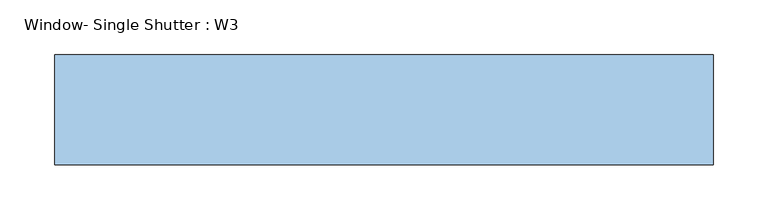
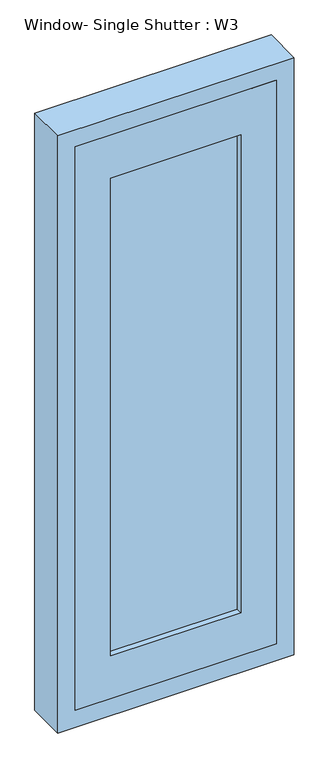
"""IFC4 building model written with IfcOpenShell, lengths in millimetres: window geometry, Window- Single Shutter : W3."""

import ifcopenshell
import ifcopenshell.guid

model = None  # the IFC model being written
_history = None  # IfcOwnerHistory: only IFC2X3 demands one
_inside = {}  # id of a spatial element -> (the spatial element, [elements in it])
_under = {}  # id of a project, library or spatial element -> (it, [spatial elements below it])
_declared = {}  # id of a project -> (the project, [libraries it declares])
_typed = {}  # id of a type object -> (the type object, [elements of that type])
_made_of = {}  # id of a material, layer set ... -> (it, [elements and type objects made of it])


def new_model(schema):
    """Start an empty IFC model of exactly this schema.

    Asked for "IFC4X3", IfcOpenShell would pick the latest addendum, in which some entities
    have other attributes; the version numbers below select the first issue.
    IFC2X3 requires an IfcOwnerHistory on every rooted entity: one is made here for all.
    """
    global model, _history
    if schema == "IFC4X3":
        model = ifcopenshell.file(schema_version=(4, 3, 0, 0))
    else:
        model = ifcopenshell.file(schema=schema)
    _inside.clear()
    _under.clear()
    _declared.clear()
    _typed.clear()
    _made_of.clear()
    _history = None
    if model.schema == "IFC2X3":
        org = make("IfcOrganization", Name="unknown")
        user = make(
            "IfcPersonAndOrganization",
            ThePerson=make("IfcPerson", FamilyName="unknown"),
            TheOrganization=org,
        )
        app = make(
            "IfcApplication",
            ApplicationDeveloper=org,
            Version="unknown",
            ApplicationFullName="unknown",
            ApplicationIdentifier="unknown",
        )
        _history = make(
            "IfcOwnerHistory",
            OwningUser=user,
            OwningApplication=app,
            ChangeAction="ADDED",
            CreationDate=0,
        )
    return model


def make(cls, **values):
    """One entity of the class cls with the attributes given. An attribute that is None is left unset."""
    return model.create_entity(
        cls, **{name: value for name, value in values.items() if value is not None}
    )


def rooted(cls, **values):
    """An entity with a GlobalId (a new one), such as an element, a storey or a relation."""
    return make(cls, GlobalId=ifcopenshell.guid.new(), OwnerHistory=_history, **values)


def si_unit(unit_type, name, prefix=None):
    """IfcSIUnit, for example si_unit("LENGTHUNIT", "METRE", prefix="MILLI")."""
    return make("IfcSIUnit", UnitType=unit_type, Prefix=prefix, Name=name)


def assignment(units):
    """IfcUnitAssignment: the units of a project."""
    return None if units is None else make("IfcUnitAssignment", Units=units)


def point(xyz):
    """IfcCartesianPoint."""
    return None if xyz is None else make("IfcCartesianPoint", Coordinates=xyz)


def direction(xyz):
    """IfcDirection."""
    return None if xyz is None else make("IfcDirection", DirectionRatios=xyz)


def frame(location, z_axis=None, x_axis=None):
    """IfcAxis2Placement3D, a coordinate frame: its origin and axes. An axis left out is left unset."""
    return make(
        "IfcAxis2Placement3D",
        Location=point(location),
        Axis=direction(z_axis),
        RefDirection=direction(x_axis),
    )


def origin():
    """The frame at (0, 0, 0) with its axes left unset."""
    return frame((0.0, 0.0, 0.0))


def place(relative_to, where):
    """IfcLocalPlacement: puts the frame where relative to a parent placement (None: the world)."""
    return make(
        "IfcLocalPlacement", PlacementRelTo=relative_to, RelativePlacement=where
    )


def context(
    kind, dimensions, precision=None, world=None, true_north=None, identifier=None
):
    """IfcGeometricRepresentationContext, for example the 3D "Model" context."""
    return make(
        "IfcGeometricRepresentationContext",
        ContextIdentifier=identifier,
        ContextType=kind,
        CoordinateSpaceDimension=dimensions,
        Precision=precision,
        WorldCoordinateSystem=world,
        TrueNorth=true_north,
    )


def project(units=None, contexts=None):
    """IfcProject with its units and contexts."""
    return rooted(
        "IfcProject",
        Name="project",
        RepresentationContexts=contexts,
        UnitsInContext=assignment(units),
    )


def spatial(cls, under=None, at=None, **own):
    """A site, building, storey or space (cls), placed at a placement, below another one or the project."""
    s = rooted(cls, ObjectPlacement=at, **own)
    if under is not None:
        _under.setdefault(under.id(), (under, []))[1].append(s)
    return s


def polyline(points):
    """IfcPolyline through the points."""
    return make("IfcPolyline", Points=[point(p) for p in points])


def outline(outer, holes=None, kind="AREA"):
    """IfcArbitraryClosedProfileDef: a profile drawn as a closed curve; with holes, ...WithVoids."""
    if holes is None:
        return make("IfcArbitraryClosedProfileDef", ProfileType=kind, OuterCurve=outer)
    return make(
        "IfcArbitraryProfileDefWithVoids",
        ProfileType=kind,
        OuterCurve=outer,
        InnerCurves=holes,
    )


def extrude(swept, where, along, depth):
    """IfcExtrudedAreaSolid: the profile swept, set in the frame where, extruded along a direction by depth."""
    return make(
        "IfcExtrudedAreaSolid",
        SweptArea=swept,
        Position=where,
        ExtrudedDirection=direction(along),
        Depth=depth,
    )


def faces_of(points, faces, orient=None, outer=None):
    """IfcFace entities. A face is a list of loops; a loop is a list of indices into points, from 0.

    orient and outer hold one flag for each loop. By default every Orientation is true, the
    first loop of a face is its IfcFaceOuterBound and the others are IfcFaceBound.
    """
    made = []
    for i, loops in enumerate(faces):
        bounds = []
        for j, loop in enumerate(loops):
            is_outer = j == 0 if outer is None else outer[i][j]
            bounds.append(
                make(
                    "IfcFaceOuterBound" if is_outer else "IfcFaceBound",
                    Bound=make("IfcPolyLoop", Polygon=[points[k] for k in loop]),
                    Orientation=True if orient is None else orient[i][j],
                )
            )
        made.append(make("IfcFace", Bounds=bounds))
    return made


def faceted_brep(points, faces, orient=None, outer=None, voids=None):
    """IfcFacetedBrep: a solid bounded by flat faces; with voids (closed shells), ...WithVoids."""
    shared = [point(p) for p in points]
    hull = make("IfcClosedShell", CfsFaces=faces_of(shared, faces, orient, outer))
    if voids is None:
        return make("IfcFacetedBrep", Outer=hull)
    return make(
        "IfcFacetedBrepWithVoids",
        Outer=hull,
        Voids=[
            make(cls, CfsFaces=faces_of(shared, fs, o, b)) for cls, fs, o, b in voids
        ],
    )


def shape(context_of_items, identifier, shape_type, items):
    """IfcShapeRepresentation: the items that make up one representation, for example the "Body"."""
    return make(
        "IfcShapeRepresentation",
        ContextOfItems=context_of_items,
        RepresentationIdentifier=identifier,
        RepresentationType=shape_type,
        Items=items,
    )


def source(mapping_origin, context_of_items, identifier, shape_type, items):
    """IfcRepresentationMap: a shape defined once, which mapped items show again and again."""
    return make(
        "IfcRepresentationMap",
        MappingOrigin=mapping_origin,
        MappedRepresentation=shape(context_of_items, identifier, shape_type, items),
    )


def transform(
    local_origin,
    x_axis=None,
    y_axis=None,
    z_axis=None,
    scale=None,
    scale2=None,
    scale3=None,
    uniform=True,
):
    """IfcCartesianTransformationOperator3D, or its non-uniform kind. x_axis, y_axis, z_axis: its Axis1, 2, 3."""
    if uniform:
        return make(
            "IfcCartesianTransformationOperator3D",
            Axis1=direction(x_axis),
            Axis2=direction(y_axis),
            LocalOrigin=point(local_origin),
            Scale=scale,
            Axis3=direction(z_axis),
        )
    return make(
        "IfcCartesianTransformationOperator3DnonUniform",
        Axis1=direction(x_axis),
        Axis2=direction(y_axis),
        LocalOrigin=point(local_origin),
        Scale=scale,
        Axis3=direction(z_axis),
        Scale2=scale2,
        Scale3=scale3,
    )


def mapped(mapping_source, mapping_target):
    """IfcMappedItem: shows the shape of a source again, moved by a transform."""
    return make(
        "IfcMappedItem", MappingSource=mapping_source, MappingTarget=mapping_target
    )


def made_of(thing, what):
    """Note that an element or type object is made of a material, layer set ...; save() writes the relation."""
    if what is not None:
        _made_of.setdefault(what.id(), (what, []))[1].append(thing)
    return thing


def element(
    cls,
    number,
    at=None,
    inside=None,
    cuts=None,
    type_object=None,
    material=None,
    context=None,
    identifier="Body",
    shape_type=None,
    held_by="IfcProductDefinitionShape",
    body=None,
    shapes=None,
    **own,
):
    """One element of the class cls, such as IfcWall. Its Tag is "e" and its number.

    at: its placement. inside: the storey or other place that contains it. cuts: it is an
    opening in that element (IfcRelVoidsElement). A single representation is given by context,
    identifier, shape_type and body (its items); several are given by shapes. held_by: the class
    of the entity that holds the representations. save() writes the other relations.
    """
    e = rooted(cls, Tag="e%d" % number, ObjectPlacement=at, **own)
    if body is not None:
        shapes = [shape(context, identifier, shape_type, body)]
    if shapes is not None:
        e.Representation = make(held_by, Representations=shapes)
    if inside is not None:
        _inside.setdefault(inside.id(), (inside, []))[1].append(e)
    if cuts is not None:
        rooted(
            "IfcRelVoidsElement", RelatingBuildingElement=cuts, RelatedOpeningElement=e
        )
    if type_object is not None:
        _typed.setdefault(type_object.id(), (type_object, []))[1].append(e)
    return made_of(e, material)


def aggregate(whole, parts):
    """IfcRelAggregates: a whole, such as a stair, and the parts it consists of."""
    return rooted("IfcRelAggregates", RelatingObject=whole, RelatedObjects=parts)


def save(model, path):
    """Write the relations noted so far, then the file.

    IfcRelAggregates (storeys below a building ...), IfcRelContainedInSpatialStructure (elements
    in a storey), IfcRelDefinesByType, IfcRelAssociatesMaterial and IfcRelDeclares: one each for
    every whole, place, type object, material and project.
    """
    for whole, parts in _under.values():
        aggregate(whole, parts)
    for where, things in _inside.values():
        rooted(
            "IfcRelContainedInSpatialStructure",
            RelatedElements=things,
            RelatingStructure=where,
        )
    for kind, things in _typed.values():
        rooted("IfcRelDefinesByType", RelatedObjects=things, RelatingType=kind)
    for what, things in _made_of.values():
        rooted("IfcRelAssociatesMaterial", RelatedObjects=things, RelatingMaterial=what)
    for by, libraries in _declared.values():
        rooted("IfcRelDeclares", RelatingContext=by, RelatedDefinitions=libraries)
    model.write(path)


def window_single_shutter_w3_b236610e(model_context):
    return source(origin(), model_context, "Body", "SolidModel", [
        extrude(outline(polyline([(-165.0, -30.5), (165.0, -30.5), (165.0, -34.5), (-165.0, -34.5), (-165.0, -30.5)])), frame((0.0, 0.0, 960.0), z_axis=(0.0, 0.0, 1.0), x_axis=(1.0, 0.0, 0.0)), (0.0, 0.0, 1.0), 1280.0),
        extrude(outline(polyline([(845.0, 255.0), (2355.0, 255.0), (2355.0, -255.0), (845.0, -255.0), (845.0, 255.0)]), holes=[polyline([(2240.0, 165.0), (960.0, 165.0), (960.0, -165.0), (2240.0, -165.0), (2240.0, 165.0)])]), frame((0.0, -50.0, 0.0), z_axis=(0.0, 1.0, 0.0), x_axis=(0.0, 0.0, 1.0)), (0.0, 0.0, 1.0), 35.0),
        faceted_brep([(-240.0, -15.0, 2340.0), (-240.0, 50.0, 2340.0), (240.0, 50.0, 2340.0), (240.0, -15.0, 2340.0), (-255.0, -50.0, 2355.0), (-255.0, -15.0, 2355.0), (255.0, -15.0, 2355.0), (255.0, -50.0, 2355.0), (-300.0, 50.0, 2400.0), (-300.0, -50.0, 2400.0), (300.0, -50.0, 2400.0), (300.0, 50.0, 2400.0), (240.0, 50.0, 860.0), (240.0, -15.0, 860.0), (255.0, -15.0, 845.0), (255.0, -50.0, 845.0), (300.0, -50.0, 800.0), (300.0, 50.0, 800.0), (-240.0, 50.0, 860.0), (-240.0, -15.0, 860.0), (-255.0, -15.0, 845.0), (-255.0, -50.0, 845.0), (-300.0, -50.0, 800.0), (-300.0, 50.0, 800.0)], [[[0, 1, 2, 3]], [[4, 5, 6, 7]], [[8, 9, 10, 11]], [[3, 2, 12, 13]], [[7, 6, 14, 15]], [[11, 10, 16, 17]], [[13, 12, 18, 19]], [[15, 14, 20, 21]], [[17, 16, 22, 23]], [[11, 17, 23, 8], [1, 18, 12, 2]], [[19, 18, 1, 0]], [[5, 20, 14, 6], [3, 13, 19, 0]], [[21, 20, 5, 4]], [[9, 22, 16, 10], [7, 15, 21, 4]], [[23, 22, 9, 8]]]),
    ])


if __name__ == "__main__":
    model = new_model("IFC4")
    model_context = context("Model", 3, world=origin())
    ifc_project = project(units=[si_unit("LENGTHUNIT", "METRE", prefix="MILLI")], contexts=[model_context])
    site = spatial("IfcSite", under=ifc_project)
    building = spatial("IfcBuilding", under=site)
    placement = place(None, origin())
    window_single_shutter_w3_shape = window_single_shutter_w3_b236610e(model_context)
    element("IfcWindow", 1, ObjectType="Window- Single Shutter : W3", at=placement, inside=building, context=model_context, shape_type="MappedRepresentation", body=[
        mapped(window_single_shutter_w3_shape, transform((0.0, 0.0, 0.0), x_axis=(1.0, 0.0, 0.0), y_axis=(0.0, 1.0, 0.0), z_axis=(0.0, 0.0, 1.0))),
    ])
    save(model, "model.ifc")
